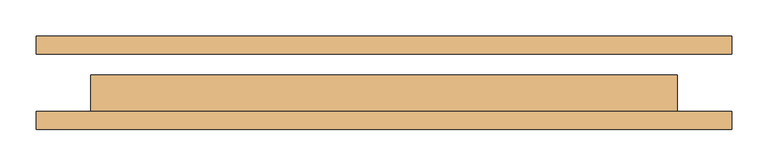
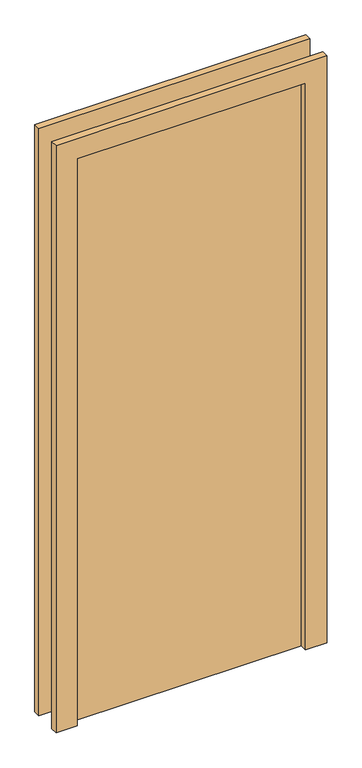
"""IFC4 building model written with IfcOpenShell, lengths in millimetres: door geometry, Одиночные-Щитовые : 0813 x 2134 мм."""

import ifcopenshell
import ifcopenshell.guid

model = None  # the IFC model being written
_history = None  # IfcOwnerHistory: only IFC2X3 demands one
_inside = {}  # id of a spatial element -> (the spatial element, [elements in it])
_under = {}  # id of a project, library or spatial element -> (it, [spatial elements below it])
_declared = {}  # id of a project -> (the project, [libraries it declares])
_typed = {}  # id of a type object -> (the type object, [elements of that type])
_made_of = {}  # id of a material, layer set ... -> (it, [elements and type objects made of it])


def new_model(schema):
    """Start an empty IFC model of exactly this schema.

    Asked for "IFC4X3", IfcOpenShell would pick the latest addendum, in which some entities
    have other attributes; the version numbers below select the first issue.
    IFC2X3 requires an IfcOwnerHistory on every rooted entity: one is made here for all.
    """
    global model, _history
    if schema == "IFC4X3":
        model = ifcopenshell.file(schema_version=(4, 3, 0, 0))
    else:
        model = ifcopenshell.file(schema=schema)
    _inside.clear()
    _under.clear()
    _declared.clear()
    _typed.clear()
    _made_of.clear()
    _history = None
    if model.schema == "IFC2X3":
        org = make("IfcOrganization", Name="unknown")
        user = make(
            "IfcPersonAndOrganization",
            ThePerson=make("IfcPerson", FamilyName="unknown"),
            TheOrganization=org,
        )
        app = make(
            "IfcApplication",
            ApplicationDeveloper=org,
            Version="unknown",
            ApplicationFullName="unknown",
            ApplicationIdentifier="unknown",
        )
        _history = make(
            "IfcOwnerHistory",
            OwningUser=user,
            OwningApplication=app,
            ChangeAction="ADDED",
            CreationDate=0,
        )
    return model


def make(cls, **values):
    """One entity of the class cls with the attributes given. An attribute that is None is left unset."""
    return model.create_entity(
        cls, **{name: value for name, value in values.items() if value is not None}
    )


def rooted(cls, **values):
    """An entity with a GlobalId (a new one), such as an element, a storey or a relation."""
    return make(cls, GlobalId=ifcopenshell.guid.new(), OwnerHistory=_history, **values)


def si_unit(unit_type, name, prefix=None):
    """IfcSIUnit, for example si_unit("LENGTHUNIT", "METRE", prefix="MILLI")."""
    return make("IfcSIUnit", UnitType=unit_type, Prefix=prefix, Name=name)


def assignment(units):
    """IfcUnitAssignment: the units of a project."""
    return None if units is None else make("IfcUnitAssignment", Units=units)


def point(xyz):
    """IfcCartesianPoint."""
    return None if xyz is None else make("IfcCartesianPoint", Coordinates=xyz)


def direction(xyz):
    """IfcDirection."""
    return None if xyz is None else make("IfcDirection", DirectionRatios=xyz)


def frame(location, z_axis=None, x_axis=None):
    """IfcAxis2Placement3D, a coordinate frame: its origin and axes. An axis left out is left unset."""
    return make(
        "IfcAxis2Placement3D",
        Location=point(location),
        Axis=direction(z_axis),
        RefDirection=direction(x_axis),
    )


def origin():
    """The frame at (0, 0, 0) with its axes left unset."""
    return frame((0.0, 0.0, 0.0))


def origin_with_axes():
    """The frame at (0, 0, 0) with the z axis (0, 0, 1) and the x axis (1, 0, 0) written out."""
    return frame((0.0, 0.0, 0.0), z_axis=(0.0, 0.0, 1.0), x_axis=(1.0, 0.0, 0.0))


def place(relative_to, where):
    """IfcLocalPlacement: puts the frame where relative to a parent placement (None: the world)."""
    return make(
        "IfcLocalPlacement", PlacementRelTo=relative_to, RelativePlacement=where
    )


def context(
    kind, dimensions, precision=None, world=None, true_north=None, identifier=None
):
    """IfcGeometricRepresentationContext, for example the 3D "Model" context."""
    return make(
        "IfcGeometricRepresentationContext",
        ContextIdentifier=identifier,
        ContextType=kind,
        CoordinateSpaceDimension=dimensions,
        Precision=precision,
        WorldCoordinateSystem=world,
        TrueNorth=true_north,
    )


def project(units=None, contexts=None):
    """IfcProject with its units and contexts."""
    return rooted(
        "IfcProject",
        Name="project",
        RepresentationContexts=contexts,
        UnitsInContext=assignment(units),
    )


def spatial(cls, under=None, at=None, **own):
    """A site, building, storey or space (cls), placed at a placement, below another one or the project."""
    s = rooted(cls, ObjectPlacement=at, **own)
    if under is not None:
        _under.setdefault(under.id(), (under, []))[1].append(s)
    return s


def polyline(points):
    """IfcPolyline through the points."""
    return make("IfcPolyline", Points=[point(p) for p in points])


def outline(outer, holes=None, kind="AREA"):
    """IfcArbitraryClosedProfileDef: a profile drawn as a closed curve; with holes, ...WithVoids."""
    if holes is None:
        return make("IfcArbitraryClosedProfileDef", ProfileType=kind, OuterCurve=outer)
    return make(
        "IfcArbitraryProfileDefWithVoids",
        ProfileType=kind,
        OuterCurve=outer,
        InnerCurves=holes,
    )


def extrude(swept, where, along, depth):
    """IfcExtrudedAreaSolid: the profile swept, set in the frame where, extruded along a direction by depth."""
    return make(
        "IfcExtrudedAreaSolid",
        SweptArea=swept,
        Position=where,
        ExtrudedDirection=direction(along),
        Depth=depth,
    )


def shape(context_of_items, identifier, shape_type, items):
    """IfcShapeRepresentation: the items that make up one representation, for example the "Body"."""
    return make(
        "IfcShapeRepresentation",
        ContextOfItems=context_of_items,
        RepresentationIdentifier=identifier,
        RepresentationType=shape_type,
        Items=items,
    )


def source(mapping_origin, context_of_items, identifier, shape_type, items):
    """IfcRepresentationMap: a shape defined once, which mapped items show again and again."""
    return make(
        "IfcRepresentationMap",
        MappingOrigin=mapping_origin,
        MappedRepresentation=shape(context_of_items, identifier, shape_type, items),
    )


def transform(
    local_origin,
    x_axis=None,
    y_axis=None,
    z_axis=None,
    scale=None,
    scale2=None,
    scale3=None,
    uniform=True,
):
    """IfcCartesianTransformationOperator3D, or its non-uniform kind. x_axis, y_axis, z_axis: its Axis1, 2, 3."""
    if uniform:
        return make(
            "IfcCartesianTransformationOperator3D",
            Axis1=direction(x_axis),
            Axis2=direction(y_axis),
            LocalOrigin=point(local_origin),
            Scale=scale,
            Axis3=direction(z_axis),
        )
    return make(
        "IfcCartesianTransformationOperator3DnonUniform",
        Axis1=direction(x_axis),
        Axis2=direction(y_axis),
        LocalOrigin=point(local_origin),
        Scale=scale,
        Axis3=direction(z_axis),
        Scale2=scale2,
        Scale3=scale3,
    )


def mapped(mapping_source, mapping_target):
    """IfcMappedItem: shows the shape of a source again, moved by a transform."""
    return make(
        "IfcMappedItem", MappingSource=mapping_source, MappingTarget=mapping_target
    )


def made_of(thing, what):
    """Note that an element or type object is made of a material, layer set ...; save() writes the relation."""
    if what is not None:
        _made_of.setdefault(what.id(), (what, []))[1].append(thing)
    return thing


def element(
    cls,
    number,
    at=None,
    inside=None,
    cuts=None,
    type_object=None,
    material=None,
    context=None,
    identifier="Body",
    shape_type=None,
    held_by="IfcProductDefinitionShape",
    body=None,
    shapes=None,
    **own,
):
    """One element of the class cls, such as IfcWall. Its Tag is "e" and its number.

    at: its placement. inside: the storey or other place that contains it. cuts: it is an
    opening in that element (IfcRelVoidsElement). A single representation is given by context,
    identifier, shape_type and body (its items); several are given by shapes. held_by: the class
    of the entity that holds the representations. save() writes the other relations.
    """
    e = rooted(cls, Tag="e%d" % number, ObjectPlacement=at, **own)
    if body is not None:
        shapes = [shape(context, identifier, shape_type, body)]
    if shapes is not None:
        e.Representation = make(held_by, Representations=shapes)
    if inside is not None:
        _inside.setdefault(inside.id(), (inside, []))[1].append(e)
    if cuts is not None:
        rooted(
            "IfcRelVoidsElement", RelatingBuildingElement=cuts, RelatedOpeningElement=e
        )
    if type_object is not None:
        _typed.setdefault(type_object.id(), (type_object, []))[1].append(e)
    return made_of(e, material)


def aggregate(whole, parts):
    """IfcRelAggregates: a whole, such as a stair, and the parts it consists of."""
    return rooted("IfcRelAggregates", RelatingObject=whole, RelatedObjects=parts)


def save(model, path):
    """Write the relations noted so far, then the file.

    IfcRelAggregates (storeys below a building ...), IfcRelContainedInSpatialStructure (elements
    in a storey), IfcRelDefinesByType, IfcRelAssociatesMaterial and IfcRelDeclares: one each for
    every whole, place, type object, material and project.
    """
    for whole, parts in _under.values():
        aggregate(whole, parts)
    for where, things in _inside.values():
        rooted(
            "IfcRelContainedInSpatialStructure",
            RelatedElements=things,
            RelatingStructure=where,
        )
    for kind, things in _typed.values():
        rooted("IfcRelDefinesByType", RelatedObjects=things, RelatingType=kind)
    for what, things in _made_of.values():
        rooted("IfcRelAssociatesMaterial", RelatedObjects=things, RelatingMaterial=what)
    for by, libraries in _declared.values():
        rooted("IfcRelDeclares", RelatingContext=by, RelatedDefinitions=libraries)
    model.write(path)


def door_eee9776d(model_context):
    return source(origin(), model_context, "Body", "SweptSolid", [
        extrude(outline(polyline([(2210.0, -482.5), (0.0, -482.5), (0.0, -406.5), (2134.0, -406.5), (2134.0, 406.5), (0.0, 406.5), (0.0, 482.5), (2210.0, 482.5), (2210.0, -482.5)])), frame((0.0, -65.0, 0.0), z_axis=(0.0, 1.0, 0.0), x_axis=(0.0, 0.0, 1.0)), (0.0, 0.0, 1.0), 25.0),
        extrude(outline(polyline([(2210.0, 482.5), (2210.0, -482.5), (0.0, -482.5), (0.0, -406.5), (2134.0, -406.5), (2134.0, 406.5), (0.0, 406.5), (0.0, 482.5), (2210.0, 482.5)])), frame((0.0, 40.0, 0.0), z_axis=(0.0, 1.0, 0.0), x_axis=(0.0, 0.0, 1.0)), (0.0, 0.0, 1.0), 25.0),
        extrude(outline(polyline([(406.5, 11.0), (406.5, -40.0), (-406.5, -40.0), (-406.5, 11.0), (406.5, 11.0)])), origin_with_axes(), (0.0, 0.0, 1.0), 2134.0),
    ])


if __name__ == "__main__":
    model = new_model("IFC4")
    model_context = context("Model", 3, world=origin())
    ifc_project = project(units=[si_unit("LENGTHUNIT", "METRE", prefix="MILLI")], contexts=[model_context])
    site = spatial("IfcSite", under=ifc_project)
    building = spatial("IfcBuilding", under=site)
    placement = place(None, origin())
    door_shape = door_eee9776d(model_context)
    element("IfcDoor", 1, ObjectType="Одиночные-Щитовые : 0813 x 2134 мм", at=placement, inside=building, context=model_context, shape_type="MappedRepresentation", body=[
        mapped(door_shape, transform((0.0, 0.0, 0.0), x_axis=(1.0, 0.0, 0.0), y_axis=(0.0, 1.0, 0.0), z_axis=(0.0, 0.0, 1.0))),
    ])
    save(model, "model.ifc")
